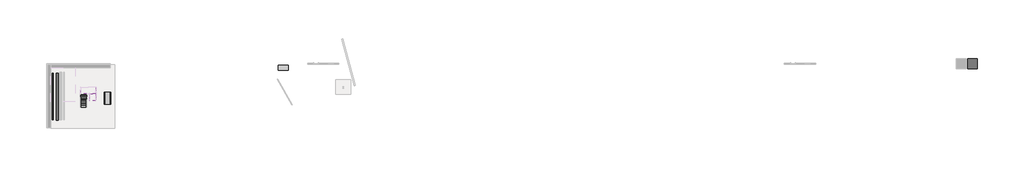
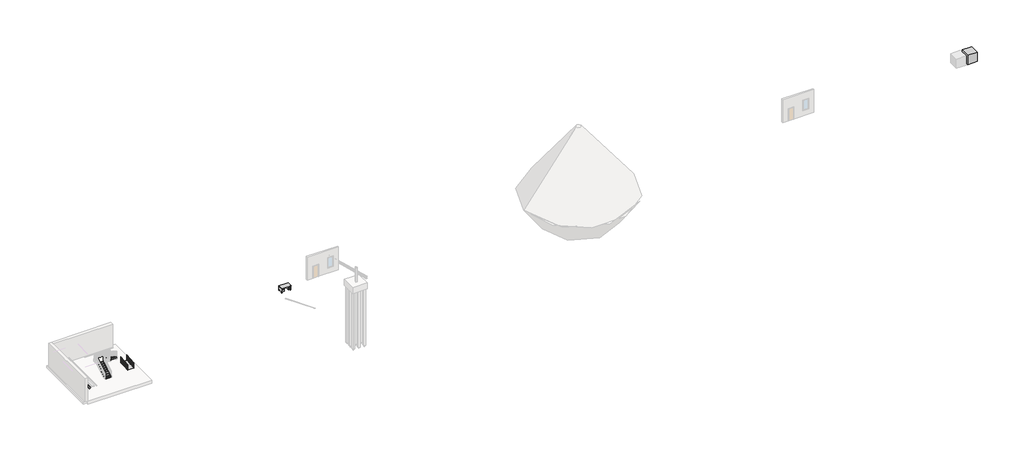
# One storey, part 4 of 6: 2 railings, 2 stair flights, 1 duct segment, 1 furniture element, 1 pipe segment, 1 proxy, 1 ramp, 1 slab.
"""IFC4 building model written with IfcOpenShell, lengths in millimetres."""

from ifc_helpers import new_model, si_unit, point, frame, frame_2d, origin, place, context, project, spatial, polyline, circle_curve, ellipse_curve, trimmed, segment, composite_curve, outline, extrude, transform, mapped, element, save
from ifc_brep_helpers import plane_surface, cylinder_surface, advanced_brep
from components import specialty_equipment_c6e90f60, furniture_8f660baf, ramp_92e51838, slab_3419086f, stair_flight_b8b95e33, stair_flight_c75f74d2

model = new_model("IFC4")

# Units and contexts
model_context = context("Model", 3, world=origin())
ifc_project = project(units=[si_unit("LENGTHUNIT", "METRE", prefix="MILLI")], contexts=[model_context])

# Site, building, storey
site = spatial("IfcSite", under=ifc_project)
building = spatial("IfcBuilding", under=site)
storey = spatial("IfcBuildingStorey", under=building, Name="Уровень 1", Elevation=0.0)

# Proxy
placement = place(None, origin())
specialty_equipment_shape = specialty_equipment_c6e90f60(model_context)
element("IfcBuildingElementProxy", 1, Name="Кубик_Невырезаемая геометрия геометрия : Кубик_Невырезаемая геометрия геометрия", ObjectType="Кубик_Невырезаемая геометрия геометрия : Кубик_Невырезаемая геометрия геометрия", at=placement, inside=storey, context=model_context, shape_type="MappedRepresentation", body=[
    mapped(specialty_equipment_shape, transform((137901.036855, 13888.8122436, 0.0), x_axis=(1.0, 0.0, 0.0), y_axis=(0.0, 1.0, 0.0), z_axis=(0.0, 0.0, 1.0))),
])

# Duct segment
element("IfcDuctSegment", 2, ObjectType="По умолчанию", at=placement, inside=storey, context=model_context, shape_type="SweptSolid", body=[
    extrude(outline(composite_curve([segment(trimmed(circle_curve(frame_2d((1200.0, -11810.5735086)), 152.5), [point((1352.5, -11810.5735086))], [point((1200.0, -11963.0735086))], False, "CARTESIAN"), True, "CONTINUOUS"), segment(trimmed(circle_curve(frame_2d((1200.0, -11810.5735086)), 152.5), [point((1200.0, -11963.0735086))], [point((1047.5, -11810.5735086))], False, "CARTESIAN"), True, "CONTINUOUS"), segment(polyline([(1047.5, -11810.5735086), (1047.5, -11808.0436686)]), True, "CONTINUOUS"), segment(trimmed(circle_curve(frame_2d((1200.0, -11808.0436686)), 152.5), [point((1047.5, -11808.0436686))], [point((1200.0, -11655.5436686))], False, "CARTESIAN"), True, "CONTINUOUS"), segment(trimmed(circle_curve(frame_2d((1200.0, -11808.0436686)), 152.5), [point((1200.0, -11655.5436686))], [point((1352.5, -11808.0436686))], False, "CARTESIAN"), True, "CONTINUOUS"), segment(polyline([(1352.5, -11808.0436686), (1352.5, -11810.5735086)]), True, "CONTINUOUS")], self_intersect=False)), frame((0.0, 4660.8556152, 0.0), z_axis=(0.0, 1.0, 0.0), x_axis=(0.0, 0.0, 1.0)), (0.0, 0.0, 1.0), 7700.0),
])

# Furniture
furniture_shape = furniture_8f660baf(model_context)
element("IfcFurniture", 3, ObjectType="M_Стол : 1525 x 762 мм", at=placement, inside=storey, context=model_context, shape_type="MappedRepresentation", body=[
    mapped(furniture_shape, transform((24391.1914114, 12820.1546779, 0.0), x_axis=(1.0, 0.0, 0.0), y_axis=(0.0, 1.0, 0.0), z_axis=(0.0, 0.0, 1.0))),
])

# Pipe segment
element("IfcPipeSegment", 4, ObjectType="По умолчанию", at=placement, inside=storey, context=model_context, shape_type="SweptSolid", body=[
    extrude(outline(composite_curve([segment(trimmed(circle_curve(frame_2d((1200.0, -12509.3085886)), 84.1375), [point((1200.0, -12593.4460886))], [point((1115.8625, -12509.3085886))], False, "CARTESIAN"), True, "CONTINUOUS"), segment(trimmed(circle_curve(frame_2d((1200.0, -12509.3085886)), 84.1375), [point((1115.8625, -12509.3085886))], [point((1200.0, -12425.1710886))], False, "CARTESIAN"), True, "CONTINUOUS"), segment(trimmed(circle_curve(frame_2d((1200.0, -12509.3085886)), 84.1375), [point((1200.0, -12425.1710886))], [point((1284.1375, -12509.3085886))], False, "CARTESIAN"), True, "CONTINUOUS"), segment(trimmed(circle_curve(frame_2d((1200.0, -12509.3085886)), 84.1375), [point((1284.1375, -12509.3085886))], [point((1200.0, -12593.4460886))], False, "CARTESIAN"), True, "CONTINUOUS")], self_intersect=False)), frame((0.0, 4760.8556152, 0.0), z_axis=(0.0, 1.0, 0.0), x_axis=(0.0, 0.0, 1.0)), (0.0, 0.0, 1.0), 7600.0),
])

# Railings
element("IfcRailing", 5, ObjectType="Труба 900 мм", at=placement, inside=storey, context=model_context, shape_type="AdvancedBrep", body=[
    advanced_brep(
    [(-3077.0702666, 7233.2944848, 879.9306757), (-3117.0702666, 7233.2944848, 879.9306757), (-3077.0702666, 9233.2944848, 1046.5973424), (-3117.0702666, 9233.2944848, 1046.5973424)],
    [
        (0, 1, ellipse_curve(frame((-3097.0702666, 7233.2944848, 879.9306757), z_axis=(0.0, -1.0, 0.0), x_axis=(0.0, 0.0, -0.9999999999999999)), 20.0693243, 20.0)),
        (1, 0, ellipse_curve(frame((-3097.0702666, 7233.2944848, 879.9306757), z_axis=(0.0, -1.0, 0.0), x_axis=(0.0, 0.0, -0.9999999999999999)), 20.0693243, 20.0)),
        (2, 3, ellipse_curve(frame((-3097.0702666, 9233.2944848, 1046.5973424), z_axis=(0.0, 1.0, 0.0), x_axis=(0.0, 0.0, -0.9999999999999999)), 20.0693243, 20.0)),
        (3, 2, ellipse_curve(frame((-3097.0702666, 9233.2944848, 1046.5973424), z_axis=(0.0, 1.0, 0.0), x_axis=(0.0, 0.0, -0.9999999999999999)), 20.0693243, 20.0)),
        (0, 2),
        (3, 1),
    ],
    [
        plane_surface(frame((-3097.0702666, 7233.2944848, 900.0), z_axis=(0.0, -1.0, 0.0), x_axis=(0.0, 0.0, 1.0))),
        plane_surface(frame((-3097.0702666, 9233.2944848, 1066.6666667), z_axis=(0.0, 1.0, 0.0), x_axis=(0.0, 0.0, 1.0))),
        cylinder_surface(frame((-3097.0702666, 7234.9553944, 880.0690848), z_axis=(0.0, -0.9965457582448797, -0.08304547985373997), x_axis=(-1.0, 0.0, 0.0)), 20.0),
    ],
    [
        (0, [[1, 2]]),
        (1, [[3, 4]]),
        (2, [[-1, 5, -4, 6]]),
        (2, [[-2, -6, -3, -5]]),
    ],
),
    advanced_brep(
    [(-3082.0702666, 7233.2944848, 759.9480068), (-3112.0702666, 7233.2944848, 759.9480068), (-3082.0702666, 9233.2944848, 926.6146734), (-3112.0702666, 9233.2944848, 926.6146734)],
    [
        (0, 1, ellipse_curve(frame((-3097.0702666, 7233.2944848, 759.9480068), z_axis=(0.0, -1.0, 0.0), x_axis=(0.0, 0.0, -0.9999999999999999)), 15.0519932, 15.0)),
        (1, 0, ellipse_curve(frame((-3097.0702666, 7233.2944848, 759.9480068), z_axis=(0.0, -1.0, 0.0), x_axis=(0.0, 0.0, -0.9999999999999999)), 15.0519932, 15.0)),
        (2, 3, ellipse_curve(frame((-3097.0702666, 9233.2944848, 926.6146734), z_axis=(0.0, 1.0, 0.0), x_axis=(0.0, 0.0, -0.9999999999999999)), 15.0519932, 15.0)),
        (3, 2, ellipse_curve(frame((-3097.0702666, 9233.2944848, 926.6146734), z_axis=(0.0, 1.0, 0.0), x_axis=(0.0, 0.0, -0.9999999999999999)), 15.0519932, 15.0)),
        (0, 2),
        (3, 1),
    ],
    [
        plane_surface(frame((-3097.0702666, 7233.2944848, 775.0), z_axis=(0.0, -1.0, 0.0), x_axis=(0.0, 0.0, 1.0))),
        plane_surface(frame((-3097.0702666, 9233.2944848, 941.6666667), z_axis=(0.0, 1.0, 0.0), x_axis=(0.0, 0.0, 1.0))),
        cylinder_surface(frame((-3097.0702666, 7234.540167, 760.0518136), z_axis=(0.0, -0.9965457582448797, -0.08304547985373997), x_axis=(-1.0, 0.0, 0.0)), 15.0),
    ],
    [
        (0, [[1, 2]]),
        (1, [[3, 4]]),
        (2, [[-1, 5, -4, 6]]),
        (2, [[-2, -6, -3, -5]]),
    ],
),
    advanced_brep(
    [(-3082.0702666, 7233.2944848, 634.9480068), (-3112.0702666, 7233.2944848, 634.9480068), (-3082.0702666, 9233.2944848, 801.6146734), (-3112.0702666, 9233.2944848, 801.6146734)],
    [
        (0, 1, ellipse_curve(frame((-3097.0702666, 7233.2944848, 634.9480068), z_axis=(0.0, -1.0, 0.0), x_axis=(0.0, 0.0, -0.9999999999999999)), 15.0519932, 15.0)),
        (1, 0, ellipse_curve(frame((-3097.0702666, 7233.2944848, 634.9480068), z_axis=(0.0, -1.0, 0.0), x_axis=(0.0, 0.0, -0.9999999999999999)), 15.0519932, 15.0)),
        (2, 3, ellipse_curve(frame((-3097.0702666, 9233.2944848, 801.6146734), z_axis=(0.0, 1.0, 0.0), x_axis=(0.0, 0.0, -0.9999999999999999)), 15.0519932, 15.0)),
        (3, 2, ellipse_curve(frame((-3097.0702666, 9233.2944848, 801.6146734), z_axis=(0.0, 1.0, 0.0), x_axis=(0.0, 0.0, -0.9999999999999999)), 15.0519932, 15.0)),
        (0, 2),
        (3, 1),
    ],
    [
        plane_surface(frame((-3097.0702666, 7233.2944848, 650.0), z_axis=(0.0, -1.0, 0.0), x_axis=(0.0, 0.0, 1.0))),
        plane_surface(frame((-3097.0702666, 9233.2944848, 816.6666667), z_axis=(0.0, 1.0, 0.0), x_axis=(0.0, 0.0, 1.0))),
        cylinder_surface(frame((-3097.0702666, 7234.540167, 635.0518136), z_axis=(0.0, -0.9965457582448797, -0.08304547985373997), x_axis=(-1.0, 0.0, 0.0)), 15.0),
    ],
    [
        (0, [[1, 2]]),
        (1, [[3, 4]]),
        (2, [[-1, 5, -4, 6]]),
        (2, [[-2, -6, -3, -5]]),
    ],
),
    advanced_brep(
    [(-3082.0702666, 7233.2944848, 509.9480068), (-3112.0702666, 7233.2944848, 509.9480068), (-3082.0702666, 9233.2944848, 676.6146734), (-3112.0702666, 9233.2944848, 676.6146734)],
    [
        (0, 1, ellipse_curve(frame((-3097.0702666, 7233.2944848, 509.9480068), z_axis=(0.0, -1.0, 0.0), x_axis=(0.0, 0.0, -0.9999999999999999)), 15.0519932, 15.0)),
        (1, 0, ellipse_curve(frame((-3097.0702666, 7233.2944848, 509.9480068), z_axis=(0.0, -1.0, 0.0), x_axis=(0.0, 0.0, -0.9999999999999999)), 15.0519932, 15.0)),
        (2, 3, ellipse_curve(frame((-3097.0702666, 9233.2944848, 676.6146734), z_axis=(0.0, 1.0, 0.0), x_axis=(0.0, 0.0, -0.9999999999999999)), 15.0519932, 15.0)),
        (3, 2, ellipse_curve(frame((-3097.0702666, 9233.2944848, 676.6146734), z_axis=(0.0, 1.0, 0.0), x_axis=(0.0, 0.0, -0.9999999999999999)), 15.0519932, 15.0)),
        (0, 2),
        (3, 1),
    ],
    [
        plane_surface(frame((-3097.0702666, 7233.2944848, 525.0), z_axis=(0.0, -1.0, 0.0), x_axis=(0.0, 0.0, 1.0))),
        plane_surface(frame((-3097.0702666, 9233.2944848, 691.6666667), z_axis=(0.0, 1.0, 0.0), x_axis=(0.0, 0.0, 1.0))),
        cylinder_surface(frame((-3097.0702666, 7234.540167, 510.0518136), z_axis=(0.0, -0.9965457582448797, -0.08304547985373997), x_axis=(-1.0, 0.0, 0.0)), 15.0),
    ],
    [
        (0, [[1, 2]]),
        (1, [[3, 4]]),
        (2, [[-1, 5, -4, 6]]),
        (2, [[-2, -6, -3, -5]]),
    ],
),
    advanced_brep(
    [(-3082.0702666, 7233.2944848, 384.9480068), (-3112.0702666, 7233.2944848, 384.9480068), (-3082.0702666, 9233.2944848, 551.6146734), (-3112.0702666, 9233.2944848, 551.6146734)],
    [
        (0, 1, ellipse_curve(frame((-3097.0702666, 7233.2944848, 384.9480068), z_axis=(0.0, -1.0, 0.0), x_axis=(0.0, 0.0, -0.9999999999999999)), 15.0519932, 15.0)),
        (1, 0, ellipse_curve(frame((-3097.0702666, 7233.2944848, 384.9480068), z_axis=(0.0, -1.0, 0.0), x_axis=(0.0, 0.0, -0.9999999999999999)), 15.0519932, 15.0)),
        (2, 3, ellipse_curve(frame((-3097.0702666, 9233.2944848, 551.6146734), z_axis=(0.0, 1.0, 0.0), x_axis=(0.0, 0.0, -0.9999999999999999)), 15.0519932, 15.0)),
        (3, 2, ellipse_curve(frame((-3097.0702666, 9233.2944848, 551.6146734), z_axis=(0.0, 1.0, 0.0), x_axis=(0.0, 0.0, -0.9999999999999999)), 15.0519932, 15.0)),
        (0, 2),
        (3, 1),
    ],
    [
        plane_surface(frame((-3097.0702666, 7233.2944848, 400.0), z_axis=(0.0, -1.0, 0.0), x_axis=(0.0, 0.0, 1.0))),
        plane_surface(frame((-3097.0702666, 9233.2944848, 566.6666667), z_axis=(0.0, 1.0, 0.0), x_axis=(0.0, 0.0, 1.0))),
        cylinder_surface(frame((-3097.0702666, 7234.540167, 385.0518136), z_axis=(0.0, -0.9965457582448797, -0.08304547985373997), x_axis=(-1.0, 0.0, 0.0)), 15.0),
    ],
    [
        (0, [[1, 2]]),
        (1, [[3, 4]]),
        (2, [[-1, 5, -4, 6]]),
        (2, [[-2, -6, -3, -5]]),
    ],
),
    advanced_brep(
    [(-3082.0702666, 7233.2944848, 259.9480068), (-3112.0702666, 7233.2944848, 259.9480068), (-3082.0702666, 9233.2944848, 426.6146734), (-3112.0702666, 9233.2944848, 426.6146734)],
    [
        (0, 1, ellipse_curve(frame((-3097.0702666, 7233.2944848, 259.9480068), z_axis=(0.0, -1.0, 0.0), x_axis=(0.0, 0.0, -0.9999999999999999)), 15.0519932, 15.0)),
        (1, 0, ellipse_curve(frame((-3097.0702666, 7233.2944848, 259.9480068), z_axis=(0.0, -1.0, 0.0), x_axis=(0.0, 0.0, -0.9999999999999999)), 15.0519932, 15.0)),
        (2, 3, ellipse_curve(frame((-3097.0702666, 9233.2944848, 426.6146734), z_axis=(0.0, 1.0, 0.0), x_axis=(0.0, 0.0, -0.9999999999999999)), 15.0519932, 15.0)),
        (3, 2, ellipse_curve(frame((-3097.0702666, 9233.2944848, 426.6146734), z_axis=(0.0, 1.0, 0.0), x_axis=(0.0, 0.0, -0.9999999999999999)), 15.0519932, 15.0)),
        (0, 2),
        (3, 1),
    ],
    [
        plane_surface(frame((-3097.0702666, 7233.2944848, 275.0), z_axis=(0.0, -1.0, 0.0), x_axis=(0.0, 0.0, 1.0))),
        plane_surface(frame((-3097.0702666, 9233.2944848, 441.6666667), z_axis=(0.0, 1.0, 0.0), x_axis=(0.0, 0.0, 1.0))),
        cylinder_surface(frame((-3097.0702666, 7234.540167, 260.0518136), z_axis=(0.0, -0.9965457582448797, -0.08304547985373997), x_axis=(-1.0, 0.0, 0.0)), 15.0),
    ],
    [
        (0, [[1, 2]]),
        (1, [[3, 4]]),
        (2, [[-1, 5, -4, 6]]),
        (2, [[-2, -6, -3, -5]]),
    ],
),
    advanced_brep(
    [(-3082.0702666, 7233.2944848, 134.9480068), (-3112.0702666, 7233.2944848, 134.9480068), (-3082.0702666, 9233.2944848, 301.6146734), (-3112.0702666, 9233.2944848, 301.6146734)],
    [
        (0, 1, ellipse_curve(frame((-3097.0702666, 7233.2944848, 134.9480068), z_axis=(0.0, -1.0, 0.0), x_axis=(0.0, 0.0, -0.9999999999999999)), 15.0519932, 15.0)),
        (1, 0, ellipse_curve(frame((-3097.0702666, 7233.2944848, 134.9480068), z_axis=(0.0, -1.0, 0.0), x_axis=(0.0, 0.0, -0.9999999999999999)), 15.0519932, 15.0)),
        (2, 3, ellipse_curve(frame((-3097.0702666, 9233.2944848, 301.6146734), z_axis=(0.0, 1.0, 0.0), x_axis=(0.0, 0.0, -0.9999999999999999)), 15.0519932, 15.0)),
        (3, 2, ellipse_curve(frame((-3097.0702666, 9233.2944848, 301.6146734), z_axis=(0.0, 1.0, 0.0), x_axis=(0.0, 0.0, -0.9999999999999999)), 15.0519932, 15.0)),
        (0, 2),
        (3, 1),
    ],
    [
        plane_surface(frame((-3097.0702666, 7233.2944848, 150.0), z_axis=(0.0, -1.0, 0.0), x_axis=(0.0, 0.0, 1.0))),
        plane_surface(frame((-3097.0702666, 9233.2944848, 316.6666667), z_axis=(0.0, 1.0, 0.0), x_axis=(0.0, 0.0, 1.0))),
        cylinder_surface(frame((-3097.0702666, 7234.540167, 135.0518136), z_axis=(0.0, -0.9965457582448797, -0.08304547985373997), x_axis=(-1.0, 0.0, 0.0)), 15.0),
    ],
    [
        (0, [[1, 2]]),
        (1, [[3, 4]]),
        (2, [[-1, 5, -4, 6]]),
        (2, [[-2, -6, -3, -5]]),
    ],
),
    advanced_brep(
    [(-3109.5702666, 8233.2944848, 943.1946847), (-3084.5702666, 8233.2944848, 943.1946847), (-3084.5702666, 8233.2944848, 83.3333333), (-3109.5702666, 8233.2944848, 83.3333333)],
    [
        (0, 1, ellipse_curve(frame((-3097.0702666, 8233.2944848, 943.1946847), z_axis=(0.0, 0.08304547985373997, -0.9965457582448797), x_axis=(0.0, 0.9965457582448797, 0.0830454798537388)), 12.5433277, 12.5)),
        (1, 2),
        (2, 3, ellipse_curve(frame((-3097.0702666, 8233.2944848, 83.3333333), z_axis=(0.0, -0.08304547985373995, 0.9965457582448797), x_axis=(0.0, 0.9965457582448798, 0.08304547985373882)), 12.5433277, 12.5)),
        (3, 0),
        (3, 2, ellipse_curve(frame((-3097.0702666, 8233.2944848, 83.3333333), z_axis=(0.0, -0.08304547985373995, 0.9965457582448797), x_axis=(0.0, 0.9965457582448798, 0.08304547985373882)), 12.5433277, 12.5)),
        (1, 0, ellipse_curve(frame((-3097.0702666, 8233.2944848, 943.1946847), z_axis=(0.0, 0.08304547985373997, -0.9965457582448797), x_axis=(0.0, 0.9965457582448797, 0.0830454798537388)), 12.5433277, 12.5)),
    ],
    [
        cylinder_surface(frame((-3097.0702666, 8233.2944848, -16.6666667), z_axis=(0.0, 0.0, 1.0), x_axis=(1.0, 0.0, 0.0)), 12.5),
        plane_surface(frame((-3072.0702666, 8258.2944848, 945.2780181), z_axis=(0.0, -0.08304547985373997, 0.9965457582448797), x_axis=(-1.0, 0.0, 0.0))),
        plane_surface(frame((-3072.0702666, 8208.2944848, 81.25), z_axis=(0.0, 0.08304547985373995, -0.9965457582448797), x_axis=(-1.0, 0.0, 0.0))),
    ],
    [
        (0, [[1, 2, 3, 4]]),
        (0, [[5, -2, 6, -4]]),
        (1, [[-6, -1]]),
        (2, [[-5, -3]]),
    ],
),
    advanced_brep(
    [(-3109.5702666, 9220.7944848, 1025.4863514), (-3084.5702666, 9220.7944848, 1025.4863514), (-3084.5702666, 9220.7944848, 165.625), (-3109.5702666, 9220.7944848, 165.625)],
    [
        (0, 1, ellipse_curve(frame((-3097.0702666, 9220.7944848, 1025.4863514), z_axis=(0.0, 0.08304547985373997, -0.9965457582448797), x_axis=(0.0, 0.9965457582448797, 0.0830454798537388)), 12.5433277, 12.5)),
        (1, 2),
        (2, 3, ellipse_curve(frame((-3097.0702666, 9220.7944848, 165.625), z_axis=(0.0, -0.08304547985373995, 0.9965457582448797), x_axis=(0.0, 0.9965457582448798, 0.08304547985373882)), 12.5433277, 12.5)),
        (3, 0),
        (3, 2, ellipse_curve(frame((-3097.0702666, 9220.7944848, 165.625), z_axis=(0.0, -0.08304547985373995, 0.9965457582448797), x_axis=(0.0, 0.9965457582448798, 0.08304547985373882)), 12.5433277, 12.5)),
        (1, 0, ellipse_curve(frame((-3097.0702666, 9220.7944848, 1025.4863514), z_axis=(0.0, 0.08304547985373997, -0.9965457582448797), x_axis=(0.0, 0.9965457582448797, 0.0830454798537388)), 12.5433277, 12.5)),
    ],
    [
        cylinder_surface(frame((-3097.0702666, 9220.7944848, 65.625), z_axis=(0.0, 0.0, 1.0), x_axis=(1.0, 0.0, 0.0)), 12.5),
        plane_surface(frame((-3072.0702666, 9245.7944848, 1027.5696847), z_axis=(0.0, -0.08304547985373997, 0.9965457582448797), x_axis=(-1.0, 0.0, 0.0))),
        plane_surface(frame((-3072.0702666, 9195.7944848, 163.5416667), z_axis=(0.0, 0.08304547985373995, -0.9965457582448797), x_axis=(-1.0, 0.0, 0.0))),
    ],
    [
        (0, [[1, 2, 3, 4]]),
        (0, [[5, -2, 6, -4]]),
        (1, [[-6, -1]]),
        (2, [[-5, -3]]),
    ],
),
    advanced_brep(
    [(-3109.5702666, 7245.7944848, 860.9030181), (-3084.5702666, 7245.7944848, 860.9030181), (-3084.5702666, 7245.7944848, 1.0416667), (-3109.5702666, 7245.7944848, 1.0416667)],
    [
        (0, 1, ellipse_curve(frame((-3097.0702666, 7245.7944848, 860.9030181), z_axis=(0.0, 0.08304547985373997, -0.9965457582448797), x_axis=(0.0, 0.9965457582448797, 0.0830454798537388)), 12.5433277, 12.5)),
        (1, 2),
        (2, 3, ellipse_curve(frame((-3097.0702666, 7245.7944848, 1.0416667), z_axis=(0.0, -0.08304547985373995, 0.9965457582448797), x_axis=(0.0, 0.9965457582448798, 0.08304547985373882)), 12.5433277, 12.5)),
        (3, 0),
        (3, 2, ellipse_curve(frame((-3097.0702666, 7245.7944848, 1.0416667), z_axis=(0.0, -0.08304547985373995, 0.9965457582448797), x_axis=(0.0, 0.9965457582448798, 0.08304547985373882)), 12.5433277, 12.5)),
        (1, 0, ellipse_curve(frame((-3097.0702666, 7245.7944848, 860.9030181), z_axis=(0.0, 0.08304547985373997, -0.9965457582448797), x_axis=(0.0, 0.9965457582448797, 0.0830454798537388)), 12.5433277, 12.5)),
    ],
    [
        cylinder_surface(frame((-3097.0702666, 7245.7944848, -98.9583333), z_axis=(0.0, 0.0, 1.0), x_axis=(1.0, 0.0, 0.0)), 12.5),
        plane_surface(frame((-3072.0702666, 7270.7944848, 862.9863514), z_axis=(0.0, -0.08304547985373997, 0.9965457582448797), x_axis=(-1.0, 0.0, 0.0))),
        plane_surface(frame((-3072.0702666, 7220.7944848, -1.0416667), z_axis=(0.0, 0.08304547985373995, -0.9965457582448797), x_axis=(-1.0, 0.0, 0.0))),
    ],
    [
        (0, [[1, 2, 3, 4]]),
        (0, [[5, -2, 6, -4]]),
        (1, [[-6, -1]]),
        (2, [[-5, -3]]),
    ],
),
])
element("IfcRailing", 6, ObjectType="Труба 900 мм", at=placement, inside=storey, context=model_context, shape_type="AdvancedBrep", body=[
    advanced_brep(
    [(-4077.0702666, 7233.2944848, 879.9306757), (-4117.0702666, 7233.2944848, 879.9306757), (-4077.0702666, 9233.2944848, 1046.5973424), (-4117.0702666, 9233.2944848, 1046.5973424)],
    [
        (0, 1, ellipse_curve(frame((-4097.0702666, 7233.2944848, 879.9306757), z_axis=(0.0, -1.0, 0.0), x_axis=(0.0, 0.0, -0.9999999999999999)), 20.0693243, 20.0)),
        (1, 0, ellipse_curve(frame((-4097.0702666, 7233.2944848, 879.9306757), z_axis=(0.0, -1.0, 0.0), x_axis=(0.0, 0.0, -0.9999999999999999)), 20.0693243, 20.0)),
        (2, 3, ellipse_curve(frame((-4097.0702666, 9233.2944848, 1046.5973424), z_axis=(0.0, 1.0, 0.0), x_axis=(0.0, 0.0, -0.9999999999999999)), 20.0693243, 20.0)),
        (3, 2, ellipse_curve(frame((-4097.0702666, 9233.2944848, 1046.5973424), z_axis=(0.0, 1.0, 0.0), x_axis=(0.0, 0.0, -0.9999999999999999)), 20.0693243, 20.0)),
        (0, 2),
        (3, 1),
    ],
    [
        plane_surface(frame((-4097.0702666, 7233.2944848, 900.0), z_axis=(0.0, -1.0, 0.0), x_axis=(0.0, 0.0, 1.0))),
        plane_surface(frame((-4097.0702666, 9233.2944848, 1066.6666667), z_axis=(0.0, 1.0, 0.0), x_axis=(0.0, 0.0, 1.0))),
        cylinder_surface(frame((-4097.0702666, 7234.9553944, 880.0690848), z_axis=(0.0, -0.9965457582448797, -0.08304547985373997), x_axis=(-1.0, 0.0, 0.0)), 20.0),
    ],
    [
        (0, [[1, 2]]),
        (1, [[3, 4]]),
        (2, [[-1, 5, -4, 6]]),
        (2, [[-2, -6, -3, -5]]),
    ],
),
    advanced_brep(
    [(-4112.0702666, 7233.2944848, 759.9480068), (-4082.0702666, 7233.2944848, 759.9480068), (-4112.0702666, 9233.2944848, 926.6146734), (-4082.0702666, 9233.2944848, 926.6146734)],
    [
        (0, 1, ellipse_curve(frame((-4097.0702666, 7233.2944848, 759.9480068), z_axis=(0.0, -1.0, 0.0), x_axis=(0.0, 0.0, -0.9999999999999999)), 15.0519932, 15.0)),
        (1, 0, ellipse_curve(frame((-4097.0702666, 7233.2944848, 759.9480068), z_axis=(0.0, -1.0, 0.0), x_axis=(0.0, 0.0, -0.9999999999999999)), 15.0519932, 15.0)),
        (2, 3, ellipse_curve(frame((-4097.0702666, 9233.2944848, 926.6146734), z_axis=(0.0, 1.0, 0.0), x_axis=(0.0, 0.0, -0.9999999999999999)), 15.0519932, 15.0)),
        (3, 2, ellipse_curve(frame((-4097.0702666, 9233.2944848, 926.6146734), z_axis=(0.0, 1.0, 0.0), x_axis=(0.0, 0.0, -0.9999999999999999)), 15.0519932, 15.0)),
        (0, 2),
        (3, 1),
    ],
    [
        plane_surface(frame((-4097.0702666, 7233.2944848, 775.0), z_axis=(0.0, -1.0, 0.0), x_axis=(0.0, 0.0, 1.0))),
        plane_surface(frame((-4097.0702666, 9233.2944848, 941.6666667), z_axis=(0.0, 1.0, 0.0), x_axis=(0.0, 0.0, 1.0))),
        cylinder_surface(frame((-4097.0702666, 7234.540167, 760.0518136), z_axis=(0.0, -0.9965457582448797, -0.08304547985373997), x_axis=(1.0, 0.0, 0.0)), 15.0),
    ],
    [
        (0, [[1, 2]]),
        (1, [[3, 4]]),
        (2, [[-1, 5, -4, 6]]),
        (2, [[-2, -6, -3, -5]]),
    ],
),
    advanced_brep(
    [(-4112.0702666, 7233.2944848, 634.9480068), (-4082.0702666, 7233.2944848, 634.9480068), (-4112.0702666, 9233.2944848, 801.6146734), (-4082.0702666, 9233.2944848, 801.6146734)],
    [
        (0, 1, ellipse_curve(frame((-4097.0702666, 7233.2944848, 634.9480068), z_axis=(0.0, -1.0, 0.0), x_axis=(0.0, 0.0, -0.9999999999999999)), 15.0519932, 15.0)),
        (1, 0, ellipse_curve(frame((-4097.0702666, 7233.2944848, 634.9480068), z_axis=(0.0, -1.0, 0.0), x_axis=(0.0, 0.0, -0.9999999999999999)), 15.0519932, 15.0)),
        (2, 3, ellipse_curve(frame((-4097.0702666, 9233.2944848, 801.6146734), z_axis=(0.0, 1.0, 0.0), x_axis=(0.0, 0.0, -0.9999999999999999)), 15.0519932, 15.0)),
        (3, 2, ellipse_curve(frame((-4097.0702666, 9233.2944848, 801.6146734), z_axis=(0.0, 1.0, 0.0), x_axis=(0.0, 0.0, -0.9999999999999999)), 15.0519932, 15.0)),
        (0, 2),
        (3, 1),
    ],
    [
        plane_surface(frame((-4097.0702666, 7233.2944848, 650.0), z_axis=(0.0, -1.0, 0.0), x_axis=(0.0, 0.0, 1.0))),
        plane_surface(frame((-4097.0702666, 9233.2944848, 816.6666667), z_axis=(0.0, 1.0, 0.0), x_axis=(0.0, 0.0, 1.0))),
        cylinder_surface(frame((-4097.0702666, 7234.540167, 635.0518136), z_axis=(0.0, -0.9965457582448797, -0.08304547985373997), x_axis=(1.0, 0.0, 0.0)), 15.0),
    ],
    [
        (0, [[1, 2]]),
        (1, [[3, 4]]),
        (2, [[-1, 5, -4, 6]]),
        (2, [[-2, -6, -3, -5]]),
    ],
),
    advanced_brep(
    [(-4112.0702666, 7233.2944848, 509.9480068), (-4082.0702666, 7233.2944848, 509.9480068), (-4112.0702666, 9233.2944848, 676.6146734), (-4082.0702666, 9233.2944848, 676.6146734)],
    [
        (0, 1, ellipse_curve(frame((-4097.0702666, 7233.2944848, 509.9480068), z_axis=(0.0, -1.0, 0.0), x_axis=(0.0, 0.0, -0.9999999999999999)), 15.0519932, 15.0)),
        (1, 0, ellipse_curve(frame((-4097.0702666, 7233.2944848, 509.9480068), z_axis=(0.0, -1.0, 0.0), x_axis=(0.0, 0.0, -0.9999999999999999)), 15.0519932, 15.0)),
        (2, 3, ellipse_curve(frame((-4097.0702666, 9233.2944848, 676.6146734), z_axis=(0.0, 1.0, 0.0), x_axis=(0.0, 0.0, -0.9999999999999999)), 15.0519932, 15.0)),
        (3, 2, ellipse_curve(frame((-4097.0702666, 9233.2944848, 676.6146734), z_axis=(0.0, 1.0, 0.0), x_axis=(0.0, 0.0, -0.9999999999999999)), 15.0519932, 15.0)),
        (0, 2),
        (3, 1),
    ],
    [
        plane_surface(frame((-4097.0702666, 7233.2944848, 525.0), z_axis=(0.0, -1.0, 0.0), x_axis=(0.0, 0.0, 1.0))),
        plane_surface(frame((-4097.0702666, 9233.2944848, 691.6666667), z_axis=(0.0, 1.0, 0.0), x_axis=(0.0, 0.0, 1.0))),
        cylinder_surface(frame((-4097.0702666, 7234.540167, 510.0518136), z_axis=(0.0, -0.9965457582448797, -0.08304547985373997), x_axis=(1.0, 0.0, 0.0)), 15.0),
    ],
    [
        (0, [[1, 2]]),
        (1, [[3, 4]]),
        (2, [[-1, 5, -4, 6]]),
        (2, [[-2, -6, -3, -5]]),
    ],
),
    advanced_brep(
    [(-4112.0702666, 7233.2944848, 384.9480068), (-4082.0702666, 7233.2944848, 384.9480068), (-4112.0702666, 9233.2944848, 551.6146734), (-4082.0702666, 9233.2944848, 551.6146734)],
    [
        (0, 1, ellipse_curve(frame((-4097.0702666, 7233.2944848, 384.9480068), z_axis=(0.0, -1.0, 0.0), x_axis=(0.0, 0.0, -0.9999999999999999)), 15.0519932, 15.0)),
        (1, 0, ellipse_curve(frame((-4097.0702666, 7233.2944848, 384.9480068), z_axis=(0.0, -1.0, 0.0), x_axis=(0.0, 0.0, -0.9999999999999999)), 15.0519932, 15.0)),
        (2, 3, ellipse_curve(frame((-4097.0702666, 9233.2944848, 551.6146734), z_axis=(0.0, 1.0, 0.0), x_axis=(0.0, 0.0, -0.9999999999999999)), 15.0519932, 15.0)),
        (3, 2, ellipse_curve(frame((-4097.0702666, 9233.2944848, 551.6146734), z_axis=(0.0, 1.0, 0.0), x_axis=(0.0, 0.0, -0.9999999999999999)), 15.0519932, 15.0)),
        (0, 2),
        (3, 1),
    ],
    [
        plane_surface(frame((-4097.0702666, 7233.2944848, 400.0), z_axis=(0.0, -1.0, 0.0), x_axis=(0.0, 0.0, 1.0))),
        plane_surface(frame((-4097.0702666, 9233.2944848, 566.6666667), z_axis=(0.0, 1.0, 0.0), x_axis=(0.0, 0.0, 1.0))),
        cylinder_surface(frame((-4097.0702666, 7234.540167, 385.0518136), z_axis=(0.0, -0.9965457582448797, -0.08304547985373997), x_axis=(1.0, 0.0, 0.0)), 15.0),
    ],
    [
        (0, [[1, 2]]),
        (1, [[3, 4]]),
        (2, [[-1, 5, -4, 6]]),
        (2, [[-2, -6, -3, -5]]),
    ],
),
    advanced_brep(
    [(-4112.0702666, 7233.2944848, 259.9480068), (-4082.0702666, 7233.2944848, 259.9480068), (-4112.0702666, 9233.2944848, 426.6146734), (-4082.0702666, 9233.2944848, 426.6146734)],
    [
        (0, 1, ellipse_curve(frame((-4097.0702666, 7233.2944848, 259.9480068), z_axis=(0.0, -1.0, 0.0), x_axis=(0.0, 0.0, -0.9999999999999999)), 15.0519932, 15.0)),
        (1, 0, ellipse_curve(frame((-4097.0702666, 7233.2944848, 259.9480068), z_axis=(0.0, -1.0, 0.0), x_axis=(0.0, 0.0, -0.9999999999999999)), 15.0519932, 15.0)),
        (2, 3, ellipse_curve(frame((-4097.0702666, 9233.2944848, 426.6146734), z_axis=(0.0, 1.0, 0.0), x_axis=(0.0, 0.0, -0.9999999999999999)), 15.0519932, 15.0)),
        (3, 2, ellipse_curve(frame((-4097.0702666, 9233.2944848, 426.6146734), z_axis=(0.0, 1.0, 0.0), x_axis=(0.0, 0.0, -0.9999999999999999)), 15.0519932, 15.0)),
        (0, 2),
        (3, 1),
    ],
    [
        plane_surface(frame((-4097.0702666, 7233.2944848, 275.0), z_axis=(0.0, -1.0, 0.0), x_axis=(0.0, 0.0, 1.0))),
        plane_surface(frame((-4097.0702666, 9233.2944848, 441.6666667), z_axis=(0.0, 1.0, 0.0), x_axis=(0.0, 0.0, 1.0))),
        cylinder_surface(frame((-4097.0702666, 7234.540167, 260.0518136), z_axis=(0.0, -0.9965457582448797, -0.08304547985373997), x_axis=(1.0, 0.0, 0.0)), 15.0),
    ],
    [
        (0, [[1, 2]]),
        (1, [[3, 4]]),
        (2, [[-1, 5, -4, 6]]),
        (2, [[-2, -6, -3, -5]]),
    ],
),
    advanced_brep(
    [(-4112.0702666, 7233.2944848, 134.9480068), (-4082.0702666, 7233.2944848, 134.9480068), (-4112.0702666, 9233.2944848, 301.6146734), (-4082.0702666, 9233.2944848, 301.6146734)],
    [
        (0, 1, ellipse_curve(frame((-4097.0702666, 7233.2944848, 134.9480068), z_axis=(0.0, -1.0, 0.0), x_axis=(0.0, 0.0, -0.9999999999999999)), 15.0519932, 15.0)),
        (1, 0, ellipse_curve(frame((-4097.0702666, 7233.2944848, 134.9480068), z_axis=(0.0, -1.0, 0.0), x_axis=(0.0, 0.0, -0.9999999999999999)), 15.0519932, 15.0)),
        (2, 3, ellipse_curve(frame((-4097.0702666, 9233.2944848, 301.6146734), z_axis=(0.0, 1.0, 0.0), x_axis=(0.0, 0.0, -0.9999999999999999)), 15.0519932, 15.0)),
        (3, 2, ellipse_curve(frame((-4097.0702666, 9233.2944848, 301.6146734), z_axis=(0.0, 1.0, 0.0), x_axis=(0.0, 0.0, -0.9999999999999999)), 15.0519932, 15.0)),
        (0, 2),
        (3, 1),
    ],
    [
        plane_surface(frame((-4097.0702666, 7233.2944848, 150.0), z_axis=(0.0, -1.0, 0.0), x_axis=(0.0, 0.0, 1.0))),
        plane_surface(frame((-4097.0702666, 9233.2944848, 316.6666667), z_axis=(0.0, 1.0, 0.0), x_axis=(0.0, 0.0, 1.0))),
        cylinder_surface(frame((-4097.0702666, 7234.540167, 135.0518136), z_axis=(0.0, -0.9965457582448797, -0.08304547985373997), x_axis=(1.0, 0.0, 0.0)), 15.0),
    ],
    [
        (0, [[1, 2]]),
        (1, [[3, 4]]),
        (2, [[-1, 5, -4, 6]]),
        (2, [[-2, -6, -3, -5]]),
    ],
),
    advanced_brep(
    [(-4084.5702666, 8233.2944848, 943.1946847), (-4084.5702666, 8233.2944848, 83.3333333), (-4109.5702666, 8233.2944848, 83.3333333), (-4109.5702666, 8233.2944848, 943.1946847)],
    [
        (0, 1),
        (1, 2, ellipse_curve(frame((-4097.0702666, 8233.2944848, 83.3333333), z_axis=(0.0, -0.08304547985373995, 0.9965457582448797), x_axis=(0.0, 0.9965457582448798, 0.08304547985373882)), 12.5433277, 12.5)),
        (2, 3),
        (3, 0, ellipse_curve(frame((-4097.0702666, 8233.2944848, 943.1946847), z_axis=(0.0, 0.08304547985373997, -0.9965457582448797), x_axis=(0.0, 0.9965457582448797, 0.0830454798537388)), 12.5433277, 12.5)),
        (0, 3, ellipse_curve(frame((-4097.0702666, 8233.2944848, 943.1946847), z_axis=(0.0, 0.08304547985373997, -0.9965457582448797), x_axis=(0.0, 0.9965457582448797, 0.0830454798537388)), 12.5433277, 12.5)),
        (2, 1, ellipse_curve(frame((-4097.0702666, 8233.2944848, 83.3333333), z_axis=(0.0, -0.08304547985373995, 0.9965457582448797), x_axis=(0.0, 0.9965457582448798, 0.08304547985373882)), 12.5433277, 12.5)),
    ],
    [
        cylinder_surface(frame((-4097.0702666, 8233.2944848, -16.6666667), z_axis=(0.0, 0.0, 1.0), x_axis=(-1.0, 0.0, 0.0)), 12.5),
        plane_surface(frame((-4122.0702666, 8258.2944848, 945.2780181), z_axis=(0.0, -0.08304547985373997, 0.9965457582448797), x_axis=(1.0, 0.0, 0.0))),
        plane_surface(frame((-4122.0702666, 8208.2944848, 81.25), z_axis=(0.0, 0.08304547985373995, -0.9965457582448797), x_axis=(1.0, 0.0, 0.0))),
    ],
    [
        (0, [[1, 2, 3, 4]]),
        (0, [[-1, 5, -3, 6]]),
        (1, [[-4, -5]]),
        (2, [[-2, -6]]),
    ],
),
    advanced_brep(
    [(-4084.5702666, 9220.7944848, 1025.4863514), (-4084.5702666, 9220.7944848, 165.625), (-4109.5702666, 9220.7944848, 165.625), (-4109.5702666, 9220.7944848, 1025.4863514)],
    [
        (0, 1),
        (1, 2, ellipse_curve(frame((-4097.0702666, 9220.7944848, 165.625), z_axis=(0.0, -0.08304547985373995, 0.9965457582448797), x_axis=(0.0, 0.9965457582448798, 0.08304547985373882)), 12.5433277, 12.5)),
        (2, 3),
        (3, 0, ellipse_curve(frame((-4097.0702666, 9220.7944848, 1025.4863514), z_axis=(0.0, 0.08304547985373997, -0.9965457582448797), x_axis=(0.0, 0.9965457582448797, 0.0830454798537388)), 12.5433277, 12.5)),
        (0, 3, ellipse_curve(frame((-4097.0702666, 9220.7944848, 1025.4863514), z_axis=(0.0, 0.08304547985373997, -0.9965457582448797), x_axis=(0.0, 0.9965457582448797, 0.0830454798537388)), 12.5433277, 12.5)),
        (2, 1, ellipse_curve(frame((-4097.0702666, 9220.7944848, 165.625), z_axis=(0.0, -0.08304547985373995, 0.9965457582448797), x_axis=(0.0, 0.9965457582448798, 0.08304547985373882)), 12.5433277, 12.5)),
    ],
    [
        cylinder_surface(frame((-4097.0702666, 9220.7944848, 65.625), z_axis=(0.0, 0.0, 1.0), x_axis=(-1.0, 0.0, 0.0)), 12.5),
        plane_surface(frame((-4122.0702666, 9245.7944848, 1027.5696847), z_axis=(0.0, -0.08304547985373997, 0.9965457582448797), x_axis=(1.0, 0.0, 0.0))),
        plane_surface(frame((-4122.0702666, 9195.7944848, 163.5416667), z_axis=(0.0, 0.08304547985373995, -0.9965457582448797), x_axis=(1.0, 0.0, 0.0))),
    ],
    [
        (0, [[1, 2, 3, 4]]),
        (0, [[-1, 5, -3, 6]]),
        (1, [[-4, -5]]),
        (2, [[-2, -6]]),
    ],
),
    advanced_brep(
    [(-4084.5702666, 7245.7944848, 860.9030181), (-4084.5702666, 7245.7944848, 1.0416667), (-4109.5702666, 7245.7944848, 1.0416667), (-4109.5702666, 7245.7944848, 860.9030181)],
    [
        (0, 1),
        (1, 2, ellipse_curve(frame((-4097.0702666, 7245.7944848, 1.0416667), z_axis=(0.0, -0.08304547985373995, 0.9965457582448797), x_axis=(0.0, 0.9965457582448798, 0.08304547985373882)), 12.5433277, 12.5)),
        (2, 3),
        (3, 0, ellipse_curve(frame((-4097.0702666, 7245.7944848, 860.9030181), z_axis=(0.0, 0.08304547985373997, -0.9965457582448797), x_axis=(0.0, 0.9965457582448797, 0.0830454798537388)), 12.5433277, 12.5)),
        (0, 3, ellipse_curve(frame((-4097.0702666, 7245.7944848, 860.9030181), z_axis=(0.0, 0.08304547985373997, -0.9965457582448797), x_axis=(0.0, 0.9965457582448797, 0.0830454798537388)), 12.5433277, 12.5)),
        (2, 1, ellipse_curve(frame((-4097.0702666, 7245.7944848, 1.0416667), z_axis=(0.0, -0.08304547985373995, 0.9965457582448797), x_axis=(0.0, 0.9965457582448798, 0.08304547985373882)), 12.5433277, 12.5)),
    ],
    [
        cylinder_surface(frame((-4097.0702666, 7245.7944848, -98.9583333), z_axis=(0.0, 0.0, 1.0), x_axis=(-1.0, 0.0, 0.0)), 12.5),
        plane_surface(frame((-4122.0702666, 7270.7944848, 862.9863514), z_axis=(0.0, -0.08304547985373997, 0.9965457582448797), x_axis=(1.0, 0.0, 0.0))),
        plane_surface(frame((-4122.0702666, 7220.7944848, -1.0416667), z_axis=(0.0, 0.08304547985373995, -0.9965457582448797), x_axis=(1.0, 0.0, 0.0))),
    ],
    [
        (0, [[1, 2, 3, 4]]),
        (0, [[-1, 5, -3, 6]]),
        (1, [[-4, -5]]),
        (2, [[-2, -6]]),
    ],
),
])

# Ramp
ramp_shape = ramp_92e51838(model_context)
element("IfcRamp", 7, ObjectType="Пандус 1", at=placement, inside=storey, context=model_context, shape_type="MappedRepresentation", body=[
    mapped(ramp_shape, transform((0.0, 0.0, 0.0), x_axis=(1.0, 0.0, 0.0), y_axis=(0.0, 1.0, 0.0), z_axis=(0.0, 0.0, 1.0))),
])

# Slab
slab_shape = slab_3419086f(model_context)
element("IfcSlab", 8, ObjectType="Немонолитная площадка", at=placement, inside=storey, context=model_context, shape_type="MappedRepresentation", body=[
    mapped(slab_shape, transform((0.0, 0.0, 0.0), x_axis=(1.0, 0.0, 0.0), y_axis=(0.0, 1.0, 0.0), z_axis=(0.0, 0.0, 1.0))),
])

# Stair flights
stair_flight_shape = stair_flight_b8b95e33(model_context)
element("IfcStairFlight", 9, ObjectType="Проступь 50 мм, свес 25 мм, подступенок 13 мм", at=placement, inside=storey, context=model_context, shape_type="MappedRepresentation", body=[
    mapped(stair_flight_shape, transform((0.0, 0.0, 0.0), x_axis=(1.0, 0.0, 0.0), y_axis=(0.0, 1.0, 0.0), z_axis=(0.0, 0.0, 1.0))),
])
stair_flight_2_shape = stair_flight_c75f74d2(model_context)
element("IfcStairFlight", 10, ObjectType="Проступь 50 мм, свес 25 мм, подступенок 13 мм", at=placement, inside=storey, context=model_context, shape_type="MappedRepresentation", body=[
    mapped(stair_flight_2_shape, transform((0.0, 0.0, 0.0), x_axis=(1.0, 0.0, 0.0), y_axis=(0.0, 1.0, 0.0), z_axis=(0.0, 0.0, 1.0))),
])

save(model, "model.ifc")
